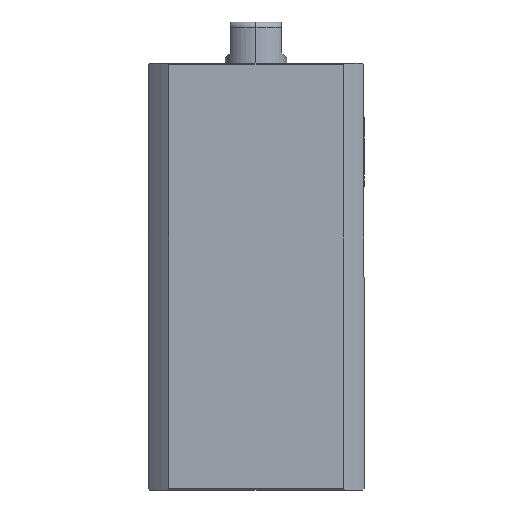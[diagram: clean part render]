
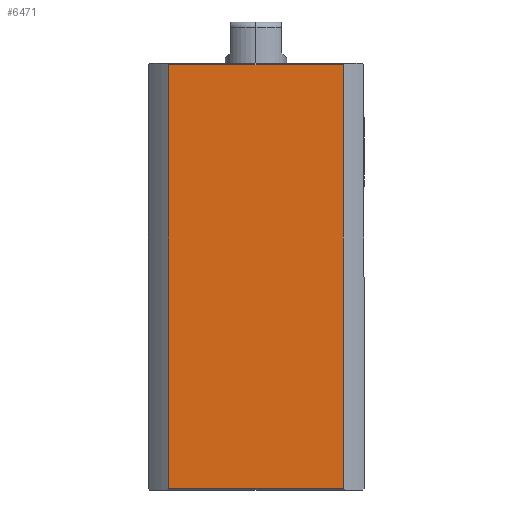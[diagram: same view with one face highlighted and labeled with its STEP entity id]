
A CAD part, left-side view. The second image highlights one B-rep face of the part: STEP entity #6471.
In plain terms, the highlighted planar face has unit normal (-1, 0, 0).
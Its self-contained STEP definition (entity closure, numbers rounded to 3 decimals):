
#706 = VECTOR ( 'NONE', #11331, 1000. ) ;
#1479 = VECTOR ( 'NONE', #3321, 1000. ) ;
#2116 = EDGE_CURVE ( 'NONE', #5178, #3104, #4555, .T. ) ;
#2421 = CARTESIAN_POINT ( 'NONE',  ( -21., 21., 82.7 ) ) ;
#2426 = ORIENTED_EDGE ( 'NONE', *, *, #9763, .F. ) ;
#2530 = LINE ( 'NONE', #5025, #706 ) ;
#2843 = CARTESIAN_POINT ( 'NONE',  ( -21., -16.971, 82.7 ) ) ;
#2990 = ORIENTED_EDGE ( 'NONE', *, *, #2116, .T. ) ;
#3104 = VERTEX_POINT ( 'NONE', #10394 ) ;
#3321 = DIRECTION ( 'NONE',  ( 0., 1., 0. ) ) ;
#3510 = FACE_OUTER_BOUND ( 'NONE', #6371, .T. ) ;
#3626 = DIRECTION ( 'NONE',  ( 0., -1., 0. ) ) ;
#3743 = CARTESIAN_POINT ( 'NONE',  ( -21., 16.971, 0.3 ) ) ;
#4555 = LINE ( 'NONE', #10024, #11480 ) ;
#4764 = VERTEX_POINT ( 'NONE', #9142 ) ;
#4928 = CARTESIAN_POINT ( 'NONE',  ( -21., 16.971, -92. ) ) ;
#5025 = CARTESIAN_POINT ( 'NONE',  ( -21., -16.971, -92. ) ) ;
#5178 = VERTEX_POINT ( 'NONE', #3743 ) ;
#5656 = ORIENTED_EDGE ( 'NONE', *, *, #7316, .F. ) ;
#6291 = VECTOR ( 'NONE', #9611, 1000. ) ;
#6371 = EDGE_LOOP ( 'NONE', ( #2426, #2990, #5656, #8608 ) ) ;
#6471 = ADVANCED_FACE ( 'NONE', ( #3510 ), #10009, .F. ) ;
#6530 = LINE ( 'NONE', #2421, #1479 ) ;
#7316 = EDGE_CURVE ( 'NONE', #11528, #3104, #2530, .T. ) ;
#8217 = DIRECTION ( 'NONE',  ( 1., 0., 0. ) ) ;
#8608 = ORIENTED_EDGE ( 'NONE', *, *, #10690, .T. ) ;
#9112 = CARTESIAN_POINT ( 'NONE',  ( -21., 21., 83. ) ) ;
#9142 = CARTESIAN_POINT ( 'NONE',  ( -21., 16.971, 82.7 ) ) ;
#9611 = DIRECTION ( 'NONE',  ( 0., 0., 1. ) ) ;
#9763 = EDGE_CURVE ( 'NONE', #5178, #4764, #11066, .T. ) ;
#9970 = AXIS2_PLACEMENT_3D ( 'NONE', #9112, #8217, #10929 ) ;
#10009 = PLANE ( 'NONE',  #9970 ) ;
#10024 = CARTESIAN_POINT ( 'NONE',  ( -21., 21., 0.3 ) ) ;
#10394 = CARTESIAN_POINT ( 'NONE',  ( -21., -16.971, 0.3 ) ) ;
#10690 = EDGE_CURVE ( 'NONE', #11528, #4764, #6530, .T. ) ;
#10929 = DIRECTION ( 'NONE',  ( 0., 1., 0. ) ) ;
#11066 = LINE ( 'NONE', #4928, #6291 ) ;
#11331 = DIRECTION ( 'NONE',  ( 0., 0., -1. ) ) ;
#11480 = VECTOR ( 'NONE', #3626, 1000. ) ;
#11528 = VERTEX_POINT ( 'NONE', #2843 ) ;
